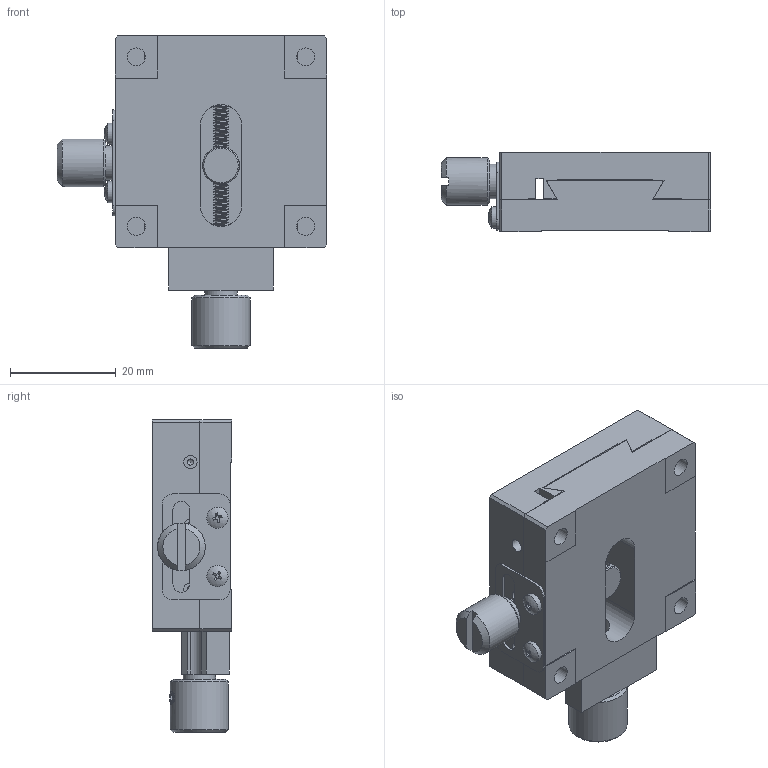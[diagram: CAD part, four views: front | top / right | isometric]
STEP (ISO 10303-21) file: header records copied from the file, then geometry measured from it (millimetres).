
FILE_DESCRIPTION (( 'STEP AP203' ), '1' );
FILE_NAME ('BFA40.STEP', '2024-07-31T03:06:33', ( 'Windows User' ), ( 'P R C' ), 'SwSTEP 2.0', 'SolidWorks 2024', '' );
FILE_SCHEMA (( 'CONFIG_CONTROL_DESIGN' ));
Products named in the file (1): BFA40
Bounding box: 50.95 x 15 x 59 mm (x, y, z)
Volume: 23579.5 mm3; surface area: 15683 mm2
Topology: 15 solids, 15 shells, 690 faces, 1808 edges, 1186 vertices
Faces by surface type: plane 465, cylinder 88, bspline 87, cone 46, torus 2, sphere 2
Full cylindrical faces by diameter (mm): 1.6 x6, 2 x4, 2.05 x3, 2.4 x2, 2.5 x15, 2.7 x2, 2.9 x1, 3 x2, 3.4 x4, 3.8 x2, 4 x5, 4.1 x1, 4.3 x2, 4.5 x1, 4.6 x2, 4.7 x1, 6 x2, 6.094 x1, 6.5 x5, 6.9 x1, 7 x1, 9 x1, 11 x1
Entity records: 42564 total; most frequent: CARTESIAN_POINT 27037, ORIENTED_EDGE 3328, DIRECTION 2655, EDGE_CURVE 1664, VERTEX_POINT 1151, LINE 983, VECTOR 983, EDGE_LOOP 891
